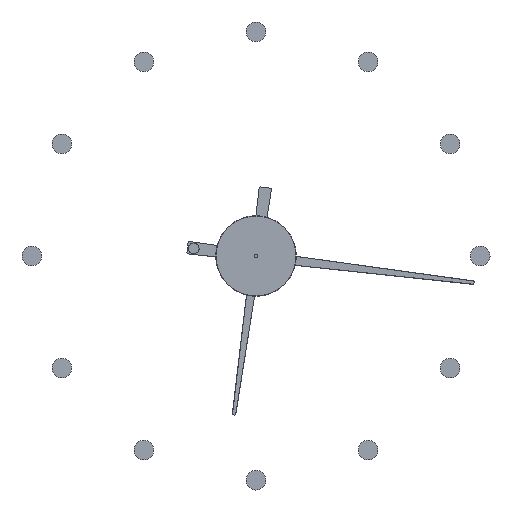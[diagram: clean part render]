
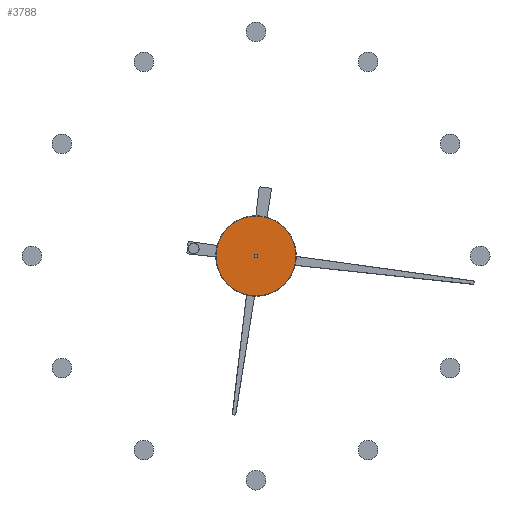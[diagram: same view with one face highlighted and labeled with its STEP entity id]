
A CAD part, front view. The second image highlights one B-rep face of the part: STEP entity #3788.
In plain terms, the highlighted planar face has unit normal (0, -1, 0).
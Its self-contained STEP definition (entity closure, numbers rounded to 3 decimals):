
#248 = DIRECTION ( 'NONE',  ( 0., 0., 1. ) ) ;
#737 = CARTESIAN_POINT ( 'NONE',  ( 0., 0., 0. ) ) ;
#801 = CARTESIAN_POINT ( 'NONE',  ( 0., 0., 44.5 ) ) ;
#1094 = EDGE_CURVE ( 'NONE', #4091, #4003, #2983, .T. ) ;
#1409 = FACE_OUTER_BOUND ( 'NONE', #4694, .T. ) ;
#1582 = DIRECTION ( 'NONE',  ( 0., 1., 0. ) ) ;
#1777 = DIRECTION ( 'NONE',  ( 0., -1., 0. ) ) ;
#1803 = EDGE_CURVE ( 'NONE', #4897, #2023, #3836, .T. ) ;
#1895 = DIRECTION ( 'NONE',  ( 0., -1., 0. ) ) ;
#2023 = VERTEX_POINT ( 'NONE', #2359 ) ;
#2061 = AXIS2_PLACEMENT_3D ( 'NONE', #2390, #1895, #248 ) ;
#2062 = DIRECTION ( 'NONE',  ( 0., 0., 1. ) ) ;
#2102 = AXIS2_PLACEMENT_3D ( 'NONE', #2888, #1582, #4965 ) ;
#2332 = CIRCLE ( 'NONE', #3848, 44.5 ) ;
#2359 = CARTESIAN_POINT ( 'NONE',  ( 0., 0., 2. ) ) ;
#2390 = CARTESIAN_POINT ( 'NONE',  ( 0., 0., 0. ) ) ;
#2468 = DIRECTION ( 'NONE',  ( 0., 0., -1. ) ) ;
#2670 = CARTESIAN_POINT ( 'NONE',  ( 0., 0., -2. ) ) ;
#2673 = CARTESIAN_POINT ( 'NONE',  ( 0., 0., 0. ) ) ;
#2888 = CARTESIAN_POINT ( 'NONE',  ( 0., 0., 0. ) ) ;
#2983 = CIRCLE ( 'NONE', #2061, 44.5 ) ;
#3060 = DIRECTION ( 'NONE',  ( 0., -1., 0. ) ) ;
#3184 = ORIENTED_EDGE ( 'NONE', *, *, #4154, .F. ) ;
#3192 = EDGE_LOOP ( 'NONE', ( #4709, #3184 ) ) ;
#3261 = CARTESIAN_POINT ( 'NONE',  ( 0., 0., -44.5 ) ) ;
#3517 = AXIS2_PLACEMENT_3D ( 'NONE', #2673, #1777, #4423 ) ;
#3544 = CARTESIAN_POINT ( 'NONE',  ( 0., 0., 0. ) ) ;
#3723 = AXIS2_PLACEMENT_3D ( 'NONE', #3544, #4795, #2468 ) ;
#3750 = EDGE_CURVE ( 'NONE', #4003, #4091, #2332, .T. ) ;
#3788 = ADVANCED_FACE ( 'NONE', ( #1409, #4043 ), #3891, .F. ) ;
#3836 = CIRCLE ( 'NONE', #3517, 2. ) ;
#3848 = AXIS2_PLACEMENT_3D ( 'NONE', #737, #3060, #2062 ) ;
#3891 = PLANE ( 'NONE',  #2102 ) ;
#4003 = VERTEX_POINT ( 'NONE', #3261 ) ;
#4043 = FACE_BOUND ( 'NONE', #3192, .T. ) ;
#4091 = VERTEX_POINT ( 'NONE', #801 ) ;
#4154 = EDGE_CURVE ( 'NONE', #2023, #4897, #4550, .T. ) ;
#4423 = DIRECTION ( 'NONE',  ( 0., 0., -1. ) ) ;
#4550 = CIRCLE ( 'NONE', #3723, 2. ) ;
#4694 = EDGE_LOOP ( 'NONE', ( #4782, #5031 ) ) ;
#4709 = ORIENTED_EDGE ( 'NONE', *, *, #1803, .F. ) ;
#4782 = ORIENTED_EDGE ( 'NONE', *, *, #1094, .T. ) ;
#4795 = DIRECTION ( 'NONE',  ( 0., -1., 0. ) ) ;
#4897 = VERTEX_POINT ( 'NONE', #2670 ) ;
#4965 = DIRECTION ( 'NONE',  ( 0., 0., 1. ) ) ;
#5031 = ORIENTED_EDGE ( 'NONE', *, *, #3750, .T. ) ;
